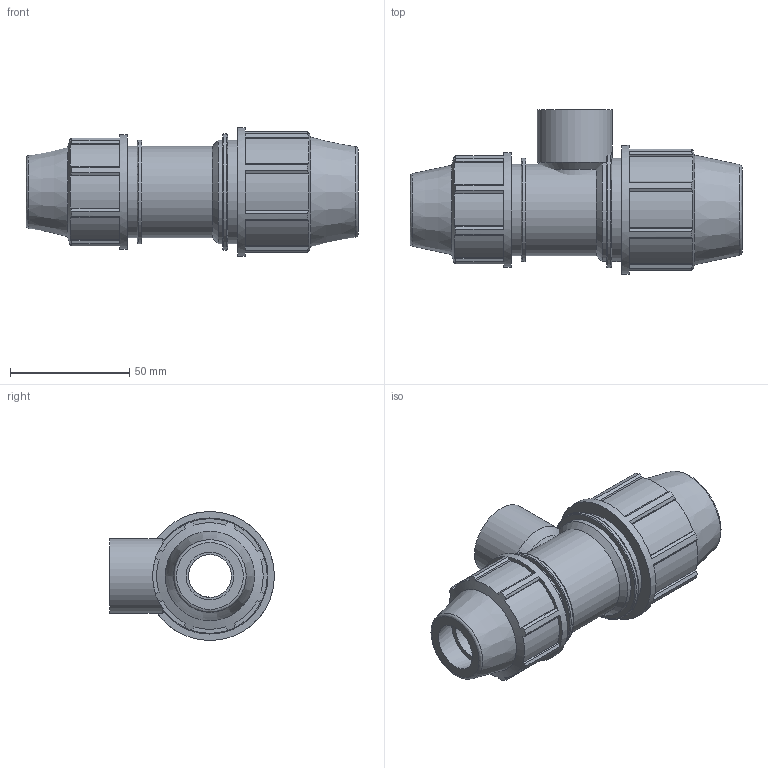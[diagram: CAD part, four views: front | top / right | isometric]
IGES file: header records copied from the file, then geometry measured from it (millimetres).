
Global section: file name: 0714S0025020_1814S0025020_0714S60250200A.ipt; native system: Autodesk Inventor 2015; preprocessor: unknown; author: KIM; date: 20170608.042130; units: millimetre
Bounding box: 139 x 69 x 54 mm (x, y, z)
Volume: 158983.5 mm3; surface area: 41825.8 mm2
Topology: 2 solids, 2 shells, 147 faces, 414 edges, 280 vertices
Faces by surface type: plane 96, cylinder 26, revolution 19, cone 6
Full cylindrical faces by diameter (mm): 25.235 x1, 31.352 x1, 38.4 x2, 43.2 x3, 48 x1, 48.6 x1, 54 x1
